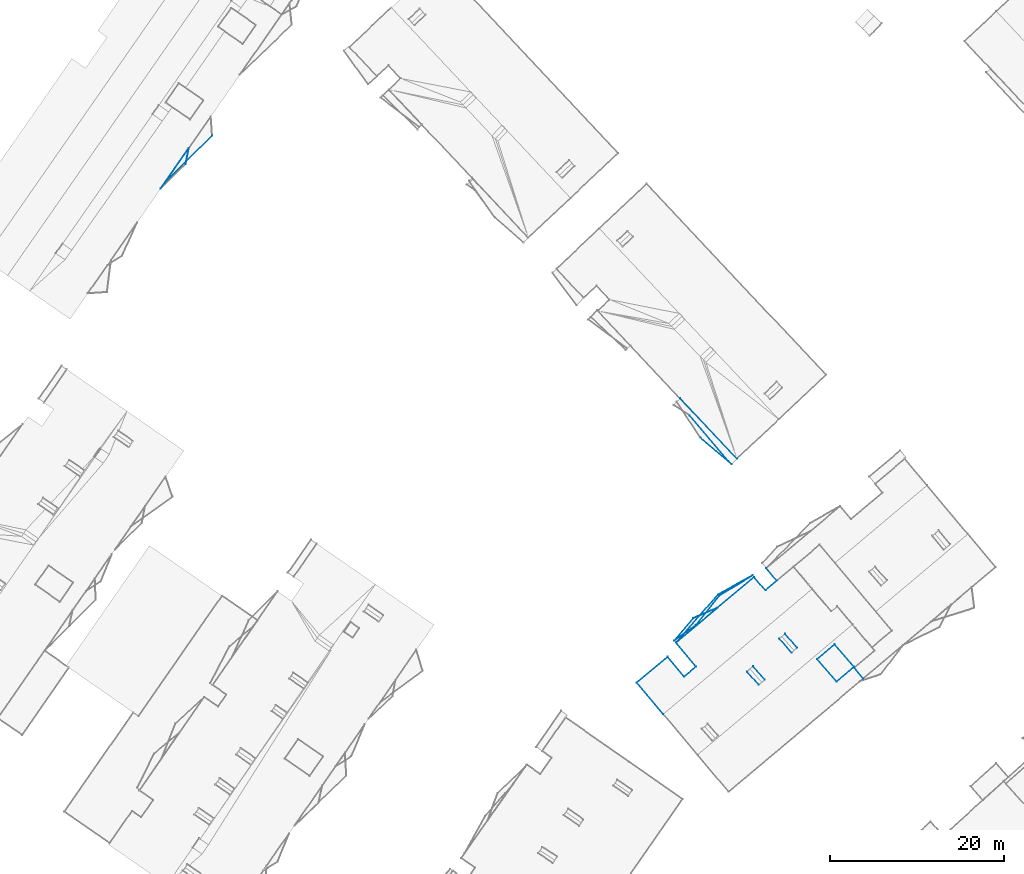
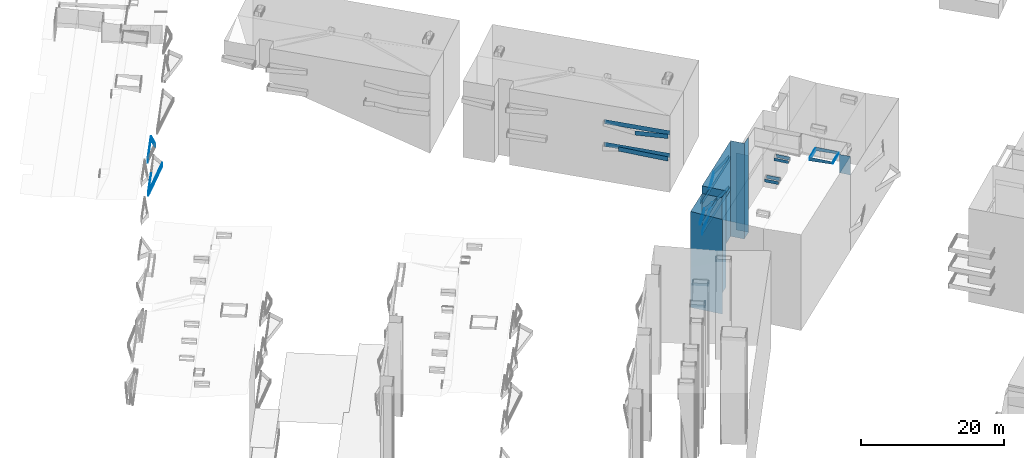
# Not in any storey, part 44 of 136: 54 walls.
"""IFC2X3 building model written with IfcOpenShell, lengths in metres."""

from ifc_helpers import new_model, entity, si_unit, converted_unit, frame, origin, place, context, subcontext, project, spatial, face_set, surface_model, element, save


model = new_model("IFC2X3")

# Units and contexts
model_context = context("Model", 3, precision=1e-05, world=origin())
body_context = subcontext(model_context, "Body", "Model", "MODEL_VIEW")
ifc_project = project(units=[converted_unit("PLANEANGLEUNIT", "DEGREE", entity("IfcRatioMeasure", 0.0174532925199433), si_unit("PLANEANGLEUNIT", "RADIAN"), dimensions=[0, 0, 0, 0, 0, 0, 0]), si_unit("AREAUNIT", "SQUARE_METRE"), si_unit("LENGTHUNIT", "METRE")], contexts=[model_context])

# Site, building
site_placement = place(None, origin())
site = spatial("IfcSite", under=ifc_project, at=site_placement, Name="_site", CompositionType="ELEMENT")
building_1_placement = place(site_placement, origin())
building_1 = spatial("IfcBuilding", under=site, at=building_1_placement, Name="_building", CompositionType="ELEMENT")

# Walls
wall_1_placement = place(building_1_placement, origin())
element("IfcWall", 1, at=wall_1_placement, inside=building_1, Name="Wall", context=body_context, shape_type="SurfaceModel", body=[
    surface_model("IfcFaceBasedSurfaceModel", [(33.61, 91.68, 43.92), (40.15, 84.73, 43.92), (40.15, 84.73, 44.67), (33.61, 91.68, 44.67)], [face_set([[[0, 1, 2, 3]]])]),
])
wall_2_placement = place(building_1_placement, origin())
element("IfcWall", 2, at=wall_2_placement, inside=building_1, Name="Wall", context=body_context, shape_type="SurfaceModel", body=[
    surface_model("IfcFaceBasedSurfaceModel", [(39.52, 84.08, 43.92), (34.74, 89.67, 43.92), (34.74, 89.67, 44.67), (39.52, 84.08, 44.67)], [face_set([[[0, 1, 2, 3]]])]),
])
wall_3_placement = place(building_1_placement, origin())
element("IfcWall", 3, at=wall_3_placement, inside=building_1, Name="Wall", context=body_context, shape_type="SurfaceModel", body=[
    surface_model("IfcFaceBasedSurfaceModel", [(33.61, 91.68, 43.92), (40.15, 84.73, 43.92), (40.15, 84.73, 44.67), (33.61, 91.68, 44.67)], [face_set([[[0, 1, 2, 3]]])]),
])
wall_4_placement = place(building_1_placement, origin())
element("IfcWall", 4, at=wall_4_placement, inside=building_1, Name="Wall", context=body_context, shape_type="SurfaceModel", body=[
    surface_model("IfcFaceBasedSurfaceModel", [(39.52, 84.08, 43.92), (34.74, 89.67, 43.92), (34.74, 89.67, 44.67), (39.52, 84.08, 44.67)], [face_set([[[0, 1, 2, 3]]])]),
])
wall_5_placement = place(building_1_placement, origin())
element("IfcWall", 5, at=wall_5_placement, inside=building_1, Name="Wall", context=body_context, shape_type="SurfaceModel", body=[
    surface_model("IfcFaceBasedSurfaceModel", [(33.61, 91.68, 47.78), (40.15, 84.73, 47.78), (40.15, 84.73, 48.53), (33.61, 91.68, 48.53)], [face_set([[[0, 1, 2, 3]]])]),
])
wall_6_placement = place(building_1_placement, origin())
element("IfcWall", 6, at=wall_6_placement, inside=building_1, Name="Wall", context=body_context, shape_type="SurfaceModel", body=[
    surface_model("IfcFaceBasedSurfaceModel", [(39.52, 84.08, 47.78), (35.95, 87.13, 47.78), (35.95, 87.13, 48.53), (39.52, 84.08, 48.53)], [face_set([[[0, 1, 2, 3]]])]),
])
wall_7_placement = place(building_1_placement, origin())
element("IfcWall", 7, at=wall_7_placement, inside=building_1, Name="Wall", context=body_context, shape_type="SurfaceModel", body=[
    surface_model("IfcFaceBasedSurfaceModel", [(33.61, 91.68, 47.78), (40.15, 84.73, 47.78), (40.15, 84.73, 48.53), (33.61, 91.68, 48.53)], [face_set([[[0, 1, 2, 3]]])]),
])
wall_8_placement = place(building_1_placement, origin())
element("IfcWall", 8, at=wall_8_placement, inside=building_1, Name="Wall", context=body_context, shape_type="SurfaceModel", body=[
    surface_model("IfcFaceBasedSurfaceModel", [(39.52, 84.08, 47.78), (35.95, 87.13, 47.78), (35.95, 87.13, 48.53), (39.52, 84.08, 48.53)], [face_set([[[0, 1, 2, 3]]])]),
])

# Building
building_2_placement = place(site_placement, origin())
building_2 = spatial("IfcBuilding", under=site, at=building_2_placement, Name="_building", CompositionType="ELEMENT")

# Walls
wall_9_placement = place(building_2_placement, origin())
element("IfcWall", 9, at=wall_9_placement, inside=building_2, Name="Wall", context=body_context, shape_type="SurfaceModel", body=[
    surface_model("IfcFaceBasedSurfaceModel", [(42.13, 71.12, 51.18), (33.15, 63.57, 51.18), (33.15, 63.57, 51.93), (42.13, 71.12, 51.93)], [face_set([[[0, 1, 2, 3]]])]),
])
wall_10_placement = place(building_2_placement, origin())
element("IfcWall", 10, at=wall_10_placement, inside=building_2, Name="Wall", context=body_context, shape_type="SurfaceModel", body=[
    surface_model("IfcFaceBasedSurfaceModel", [(33.15, 63.57, 45.95), (37.97, 69.101, 45.95), (37.97, 69.101, 46.7), (33.15, 63.57, 46.7)], [face_set([[[0, 1, 2, 3]]])]),
])
wall_11_placement = place(building_2_placement, origin())
element("IfcWall", 11, at=wall_11_placement, inside=building_2, Name="Wall", context=body_context, shape_type="SurfaceModel", body=[
    surface_model("IfcFaceBasedSurfaceModel", [(42.13, 71.12, 45.95), (33.15, 63.57, 45.95), (33.15, 63.57, 46.7), (42.13, 71.12, 46.7)], [face_set([[[0, 1, 2, 3]]])]),
])
wall_12_placement = place(building_2_placement, origin())
element("IfcWall", 12, at=wall_12_placement, inside=building_2, Name="Wall", context=body_context, shape_type="SurfaceModel", body=[
    surface_model("IfcFaceBasedSurfaceModel", [(37.97, 69.101, 45.95), (41.98, 71.311, 45.95), (41.98, 71.311, 46.7), (37.97, 69.101, 46.7)], [face_set([[[0, 1, 2, 3]]])]),
])
wall_13_placement = place(building_2_placement, origin())
element("IfcWall", 13, at=wall_13_placement, inside=building_2, Name="Wall", context=body_context, shape_type="SurfaceModel", body=[
    surface_model("IfcFaceBasedSurfaceModel", [(33.15, 63.57, 45.95), (37.97, 69.101, 45.95), (37.97, 69.101, 46.7), (33.15, 63.57, 46.7)], [face_set([[[0, 1, 2, 3]]])]),
])
wall_14_placement = place(building_2_placement, origin())
element("IfcWall", 14, at=wall_14_placement, inside=building_2, Name="Wall", context=body_context, shape_type="SurfaceModel", body=[
    surface_model("IfcFaceBasedSurfaceModel", [(42.13, 71.12, 45.95), (33.15, 63.57, 45.95), (33.15, 63.57, 46.7), (42.13, 71.12, 46.7)], [face_set([[[0, 1, 2, 3]]])]),
])
wall_15_placement = place(building_2_placement, origin())
element("IfcWall", 15, at=wall_15_placement, inside=building_2, Name="Wall", context=body_context, shape_type="SurfaceModel", body=[
    surface_model("IfcFaceBasedSurfaceModel", [(37.97, 69.101, 45.95), (41.98, 71.311, 45.95), (41.98, 71.311, 46.7), (37.97, 69.101, 46.7)], [face_set([[[0, 1, 2, 3]]])]),
])
wall_16_placement = place(building_2_placement, origin())
element("IfcWall", 16, at=wall_16_placement, inside=building_2, Name="Wall", context=body_context, shape_type="SurfaceModel", body=[
    surface_model("IfcFaceBasedSurfaceModel", [(53.62, 60.8, 54.76), (51.64, 59.08, 54.76), (51.64, 59.08, 54.315), (53.62, 60.8, 54.313)], [face_set([[[0, 1, 2, 3]]])]),
])
wall_17_placement = place(building_2_placement, origin())
element("IfcWall", 17, at=wall_17_placement, inside=building_2, Name="Wall", context=body_context, shape_type="SurfaceModel", body=[
    surface_model("IfcFaceBasedSurfaceModel", [(42.0, 60.86, 54.79), (43.37, 59.33, 54.79), (43.37, 59.33, 54.204), (42.0, 60.86, 54.223)], [face_set([[[0, 1, 2, 3]]])]),
])
wall_18_placement = place(building_2_placement, origin())
element("IfcWall", 18, at=wall_18_placement, inside=building_2, Name="Wall", context=body_context, shape_type="SurfaceModel", body=[
    surface_model("IfcFaceBasedSurfaceModel", [(45.68, 64.601, 54.79), (47.08, 62.99, 54.79), (47.08, 62.99, 54.213), (45.68, 64.601, 54.232)], [face_set([[[0, 1, 2, 3]]])]),
])
wall_19_placement = place(building_2_placement, origin())
element("IfcWall", 19, at=wall_19_placement, inside=building_2, Name="Wall", context=body_context, shape_type="SurfaceModel", body=[
    surface_model("IfcFaceBasedSurfaceModel", [(38.17, 69.0, 51.18), (41.98, 71.311, 51.18), (41.98, 71.311, 51.93), (38.17, 69.0, 51.93)], [face_set([[[0, 1, 2, 3]]])]),
])
wall_20_placement = place(building_2_placement, origin())
element("IfcWall", 20, at=wall_20_placement, inside=building_2, Name="Wall", context=body_context, shape_type="SurfaceModel", body=[
    surface_model("IfcFaceBasedSurfaceModel", [(35.39, 65.55, 51.18), (38.17, 69.0, 51.18), (38.17, 69.0, 51.93), (35.39, 65.55, 51.93)], [face_set([[[0, 1, 2, 3]]])]),
])
wall_21_placement = place(building_2_placement, origin())
element("IfcWall", 21, at=wall_21_placement, inside=building_2, Name="Wall", context=body_context, shape_type="SurfaceModel", body=[
    surface_model("IfcFaceBasedSurfaceModel", [(32.95, 63.811, 51.18), (35.39, 65.55, 51.18), (35.39, 65.55, 51.93), (32.95, 63.811, 51.93)], [face_set([[[0, 1, 2, 3]]])]),
])
wall_22_placement = place(building_2_placement, origin())
element("IfcWall", 22, at=wall_22_placement, inside=building_2, Name="Wall", context=body_context, shape_type="SurfaceModel", body=[
    surface_model("IfcFaceBasedSurfaceModel", [(42.68, 58.71, 54.74), (41.31, 60.24, 54.74), (41.31, 60.24, 54.222), (42.68, 58.71, 54.203)], [face_set([[[0, 1, 2, 3]]])]),
])
wall_23_placement = place(building_2_placement, origin())
element("IfcWall", 23, at=wall_23_placement, inside=building_2, Name="Wall", context=body_context, shape_type="SurfaceModel", body=[
    surface_model("IfcFaceBasedSurfaceModel", [(42.13, 71.12, 51.18), (33.15, 63.57, 51.18), (33.15, 63.57, 51.93), (42.13, 71.12, 51.93)], [face_set([[[0, 1, 2, 3]]])]),
])
wall_24_placement = place(building_2_placement, origin())
element("IfcWall", 24, at=wall_24_placement, inside=building_2, Name="Wall", context=body_context, shape_type="SurfaceModel", body=[
    surface_model("IfcFaceBasedSurfaceModel", [(38.17, 69.0, 51.18), (41.98, 71.311, 51.18), (41.98, 71.311, 51.93), (38.17, 69.0, 51.93)], [face_set([[[0, 1, 2, 3]]])]),
])
wall_25_placement = place(building_2_placement, origin())
element("IfcWall", 25, at=wall_25_placement, inside=building_2, Name="Wall", context=body_context, shape_type="SurfaceModel", body=[
    surface_model("IfcFaceBasedSurfaceModel", [(35.39, 65.55, 51.18), (38.17, 69.0, 51.18), (38.17, 69.0, 51.93), (35.39, 65.55, 51.93)], [face_set([[[0, 1, 2, 3]]])]),
])
wall_26_placement = place(building_2_placement, origin())
element("IfcWall", 26, at=wall_26_placement, inside=building_2, Name="Wall", context=body_context, shape_type="SurfaceModel", body=[
    surface_model("IfcFaceBasedSurfaceModel", [(51.64, 59.08, 54.76), (49.4, 61.66, 54.76), (49.4, 61.66, 54.126), (51.64, 59.08, 54.315)], [face_set([[[0, 1, 2, 3]]])]),
])
wall_27_placement = place(building_2_placement, origin())
element("IfcWall", 27, at=wall_27_placement, inside=building_2, Name="Wall", context=body_context, shape_type="SurfaceModel", body=[
    surface_model("IfcFaceBasedSurfaceModel", [(32.95, 63.811, 51.18), (35.39, 65.55, 51.18), (35.39, 65.55, 51.93), (32.95, 63.811, 51.93)], [face_set([[[0, 1, 2, 3]]])]),
])
wall_28_placement = place(building_2_placement, origin())
element("IfcWall", 28, at=wall_28_placement, inside=building_2, Name="Wall", context=body_context, shape_type="SurfaceModel", body=[
    surface_model("IfcFaceBasedSurfaceModel", [(42.13, 71.12, 54.41), (43.43, 69.58, 54.41), (43.43, 69.58, 38.08), (42.13, 71.12, 38.056)], [face_set([[[0, 1, 2, 3]]])]),
])
wall_29_placement = place(building_2_placement, origin())
element("IfcWall", 29, at=wall_29_placement, inside=building_2, Name="Wall", context=body_context, shape_type="SurfaceModel", body=[
    surface_model("IfcFaceBasedSurfaceModel", [(33.15, 63.57, 54.41), (42.13, 71.12, 54.41), (42.13, 71.12, 38.056), (33.15, 63.57, 38.023)], [face_set([[[0, 1, 2, 3]]])]),
])
wall_30_placement = place(building_2_placement, origin())
element("IfcWall", 30, at=wall_30_placement, inside=building_2, Name="Wall", context=body_context, shape_type="SurfaceModel", body=[
    surface_model("IfcFaceBasedSurfaceModel", [(35.46, 60.82, 54.41), (33.15, 63.57, 54.41), (33.15, 63.57, 38.023), (35.46, 60.82, 38.055)], [face_set([[[0, 1, 2, 3]]])]),
])
wall_31_placement = place(building_2_placement, origin())
element("IfcWall", 31, at=wall_31_placement, inside=building_2, Name="Wall", context=body_context, shape_type="SurfaceModel", body=[
    surface_model("IfcFaceBasedSurfaceModel", [(34.08, 59.65, 54.41), (35.46, 60.82, 54.41), (35.46, 60.82, 38.055), (34.08, 59.65, 38.057)], [face_set([[[0, 1, 2, 3]]])]),
])
wall_32_placement = place(building_2_placement, origin())
element("IfcWall", 32, at=wall_32_placement, inside=building_2, Name="Wall", context=body_context, shape_type="SurfaceModel", body=[
    surface_model("IfcFaceBasedSurfaceModel", [(32.17, 61.93, 54.41), (34.08, 59.65, 54.41), (34.08, 59.65, 38.057), (32.17, 61.93, 38.031)], [face_set([[[0, 1, 2, 3]]])]),
])
wall_33_placement = place(building_2_placement, origin())
element("IfcWall", 33, at=wall_33_placement, inside=building_2, Name="Wall", context=body_context, shape_type="SurfaceModel", body=[
    surface_model("IfcFaceBasedSurfaceModel", [(28.64, 58.96, 54.41), (32.17, 61.93, 54.41), (32.17, 61.93, 38.031), (28.64, 58.96, 38.019)], [face_set([[[0, 1, 2, 3]]])]),
])
wall_34_placement = place(building_2_placement, origin())
element("IfcWall", 34, at=wall_34_placement, inside=building_2, Name="Wall", context=body_context, shape_type="SurfaceModel", body=[
    surface_model("IfcFaceBasedSurfaceModel", [(31.68, 55.36, 54.15), (28.64, 58.96, 54.41), (28.64, 58.96, 38.019), (31.68, 55.36, 37.999)], [face_set([[[0, 1, 2, 3]]])]),
])
wall_35_placement = place(building_2_placement, origin())
element("IfcWall", 35, at=wall_35_placement, inside=building_2, Name="Wall", context=body_context, shape_type="SurfaceModel", body=[
    surface_model("IfcFaceBasedSurfaceModel", [(44.75, 70.68, 51.23), (43.54, 72.12, 51.23), (43.54, 72.12, 38.063), (44.75, 70.68, 38.092)], [face_set([[[0, 1, 2, 3]]])]),
])
wall_36_placement = place(building_2_placement, origin())
element("IfcWall", 36, at=wall_36_placement, inside=building_2, Name="Wall", context=body_context, shape_type="SurfaceModel", body=[
    surface_model("IfcFaceBasedSurfaceModel", [(53.66, 60.67, 54.32), (54.7, 59.43, 54.41), (54.7, 59.43, 51.2), (53.66, 60.67, 51.2)], [face_set([[[0, 1, 2, 3]]])]),
])
wall_37_placement = place(building_2_placement, origin())
element("IfcWall", 37, at=wall_37_placement, inside=building_2, Name="Wall", context=body_context, shape_type="SurfaceModel", body=[
    surface_model("IfcFaceBasedSurfaceModel", [(37.91, 67.58, 47.57), (33.15, 63.57, 47.57), (33.15, 63.57, 48.32), (37.91, 67.58, 48.32)], [face_set([[[0, 1, 2, 3]]])]),
])
wall_38_placement = place(building_2_placement, origin())
element("IfcWall", 38, at=wall_38_placement, inside=building_2, Name="Wall", context=body_context, shape_type="SurfaceModel", body=[
    surface_model("IfcFaceBasedSurfaceModel", [(35.14, 66.39, 47.57), (37.91, 67.58, 47.57), (37.91, 67.58, 48.32), (35.14, 66.39, 48.32)], [face_set([[[0, 1, 2, 3]]])]),
])
wall_39_placement = place(building_2_placement, origin())
element("IfcWall", 39, at=wall_39_placement, inside=building_2, Name="Wall", context=body_context, shape_type="SurfaceModel", body=[
    surface_model("IfcFaceBasedSurfaceModel", [(32.95, 63.811, 47.57), (35.14, 66.39, 47.57), (35.14, 66.39, 48.32), (32.95, 63.811, 48.32)], [face_set([[[0, 1, 2, 3]]])]),
])
wall_40_placement = place(building_2_placement, origin())
element("IfcWall", 40, at=wall_40_placement, inside=building_2, Name="Wall", context=body_context, shape_type="SurfaceModel", body=[
    surface_model("IfcFaceBasedSurfaceModel", [(37.91, 67.58, 47.57), (33.15, 63.57, 47.57), (33.15, 63.57, 48.32), (37.91, 67.58, 48.32)], [face_set([[[0, 1, 2, 3]]])]),
])
wall_41_placement = place(building_2_placement, origin())
element("IfcWall", 41, at=wall_41_placement, inside=building_2, Name="Wall", context=body_context, shape_type="SurfaceModel", body=[
    surface_model("IfcFaceBasedSurfaceModel", [(35.14, 66.39, 47.57), (37.91, 67.58, 47.57), (37.91, 67.58, 48.32), (35.14, 66.39, 48.32)], [face_set([[[0, 1, 2, 3]]])]),
])
wall_42_placement = place(building_2_placement, origin())
element("IfcWall", 42, at=wall_42_placement, inside=building_2, Name="Wall", context=body_context, shape_type="SurfaceModel", body=[
    surface_model("IfcFaceBasedSurfaceModel", [(32.95, 63.811, 47.57), (35.14, 66.39, 47.57), (35.14, 66.39, 48.32), (32.95, 63.811, 48.32)], [face_set([[[0, 1, 2, 3]]])]),
])
wall_43_placement = place(building_2_placement, origin())
element("IfcWall", 43, at=wall_43_placement, inside=building_2, Name="Wall", context=body_context, shape_type="SurfaceModel", body=[
    surface_model("IfcFaceBasedSurfaceModel", [(51.38, 63.38, 54.76), (53.62, 60.8, 54.76), (53.62, 60.8, 54.313), (51.38, 63.38, 54.123)], [face_set([[[0, 1, 2, 3]]])]),
])
wall_44_placement = place(building_2_placement, origin())
element("IfcWall", 44, at=wall_44_placement, inside=building_2, Name="Wall", context=body_context, shape_type="SurfaceModel", body=[
    surface_model("IfcFaceBasedSurfaceModel", [(49.4, 61.66, 54.76), (51.38, 63.38, 54.76), (51.38, 63.38, 54.123), (49.4, 61.66, 54.126)], [face_set([[[0, 1, 2, 3]]])]),
])
wall_45_placement = place(building_2_placement, origin())
element("IfcWall", 45, at=wall_45_placement, inside=building_2, Name="Wall", context=body_context, shape_type="SurfaceModel", body=[
    surface_model("IfcFaceBasedSurfaceModel", [(43.43, 69.58, 54.41), (44.75, 70.68, 54.37), (44.75, 70.68, 38.092), (43.43, 69.58, 38.08)], [face_set([[[0, 1, 2, 3]]])]),
])
wall_46_placement = place(building_2_placement, origin())
element("IfcWall", 46, at=wall_46_placement, inside=building_2, Name="Wall", context=body_context, shape_type="SurfaceModel", body=[
    surface_model("IfcFaceBasedSurfaceModel", [(46.44, 62.43, 54.71), (45.04, 64.04, 54.71), (45.04, 64.04, 54.232), (46.44, 62.43, 54.212)], [face_set([[[0, 1, 2, 3]]])]),
])

# Building
building_3_placement = place(site_placement, origin())
building_3 = spatial("IfcBuilding", under=site, at=building_3_placement, Name="_building", CompositionType="ELEMENT")

# Walls
wall_47_placement = place(building_3_placement, origin())
element("IfcWall", 47, at=wall_47_placement, inside=building_3, Name="Wall", context=body_context, shape_type="SurfaceModel", body=[
    surface_model("IfcFaceBasedSurfaceModel", [(-26.19, 115.8, 47.36), (-22.92, 120.5, 47.36), (-22.92, 120.5, 48.11), (-26.19, 115.8, 48.11)], [face_set([[[0, 1, 2, 3]]])]),
])
wall_48_placement = place(building_3_placement, origin())
element("IfcWall", 48, at=wall_48_placement, inside=building_3, Name="Wall", context=body_context, shape_type="SurfaceModel", body=[
    surface_model("IfcFaceBasedSurfaceModel", [(-22.92, 120.5, 47.36), (-23.3, 118.65, 47.36), (-23.3, 118.65, 48.11), (-22.92, 120.5, 48.11)], [face_set([[[0, 1, 2, 3]]])]),
])
wall_49_placement = place(building_3_placement, origin())
element("IfcWall", 49, at=wall_49_placement, inside=building_3, Name="Wall", context=body_context, shape_type="SurfaceModel", body=[
    surface_model("IfcFaceBasedSurfaceModel", [(-26.19, 115.8, 47.36), (-22.92, 120.5, 47.36), (-22.92, 120.5, 48.11), (-26.19, 115.8, 48.11)], [face_set([[[0, 1, 2, 3]]])]),
])
wall_50_placement = place(building_3_placement, origin())
element("IfcWall", 50, at=wall_50_placement, inside=building_3, Name="Wall", context=body_context, shape_type="SurfaceModel", body=[
    surface_model("IfcFaceBasedSurfaceModel", [(-22.92, 120.5, 47.36), (-23.3, 118.65, 47.36), (-23.3, 118.65, 48.11), (-22.92, 120.5, 48.11)], [face_set([[[0, 1, 2, 3]]])]),
])
for number, where, name in (
    (51, (0.0, 0.0, 0.0), "Wall"),
    (52, (0.0, 0.0, 0.0), "Wall"),
):
    element("IfcWall", number, at=place(building_3_placement, frame(where)), inside=building_3, Name=name, context=body_context, shape_type="SurfaceModel", body=[
        surface_model("IfcFaceBasedSurfaceModel", [(-25.68, 116.53, 41.07), (-22.92, 120.5, 41.07), (-22.92, 120.5, 41.82), (-25.68, 116.53, 41.82)], [face_set([[[0, 1, 2, 3]]])]),
    ])
for number, where, name in (
    (53, (0.0, 0.0, 0.0), "Wall"),
    (54, (0.0, 0.0, 0.0), "Wall"),
):
    element("IfcWall", number, at=place(building_3_placement, frame(where)), inside=building_3, Name=name, context=body_context, shape_type="SurfaceModel", body=[
        surface_model("IfcFaceBasedSurfaceModel", [(-20.25, 121.92, 41.07), (-25.68, 116.53, 41.07), (-25.68, 116.53, 41.82), (-20.25, 121.92, 41.82)], [face_set([[[0, 1, 2, 3]]])]),
    ])

save(model, "model.ifc")
